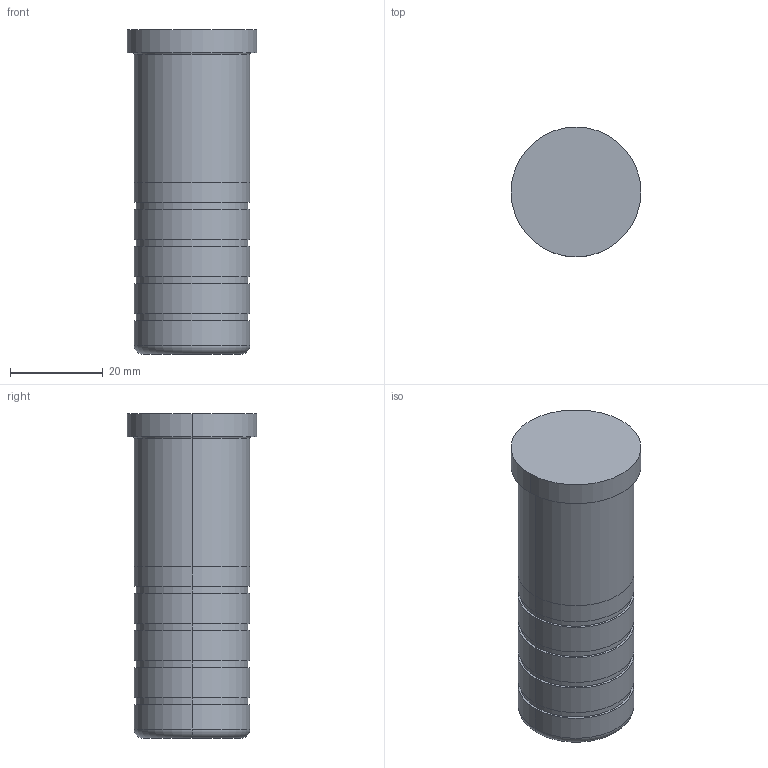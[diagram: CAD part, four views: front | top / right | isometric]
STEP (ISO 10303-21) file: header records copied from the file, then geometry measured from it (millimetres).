
FILE_DESCRIPTION(/* description */ (''),/* implementation_level */ '2;1');
FILE_NAME(/* name */ '3d_sgoh25-70_05200_r00.stp',/* time_stamp */ '2011-01-10T14:11:08+09:00',/* author */ ('MISUMI'),/* organization */ (''),/* preprocessor_version */ 'ST-DEVELOPER v11',/* originating_system */ 'UGS - NX 5.0',/* authorisation */ '');
FILE_SCHEMA (('CONFIG_CONTROL_DESIGN'));
Length unit declared in the file: millimetre
Products named in the file (1): 3d_sgoh25-70_05200_r00
Bounding box: 28 x 28 x 70 mm (x, y, z)
Volume: 34690.7 mm3; surface area: 6987.8 mm2
Topology: 1 solids, 1 shells, 37 faces, 72 edges, 46 vertices
Faces by surface type: cylinder 22, plane 11, torus 4
Entity records: 1054 total; most frequent: DIRECTION 198, CARTESIAN_POINT 156, ORIENTED_EDGE 144, AXIS2_PLACEMENT_3D 88, EDGE_CURVE 72, CIRCLE 50, EDGE_LOOP 46, VERTEX_POINT 46
